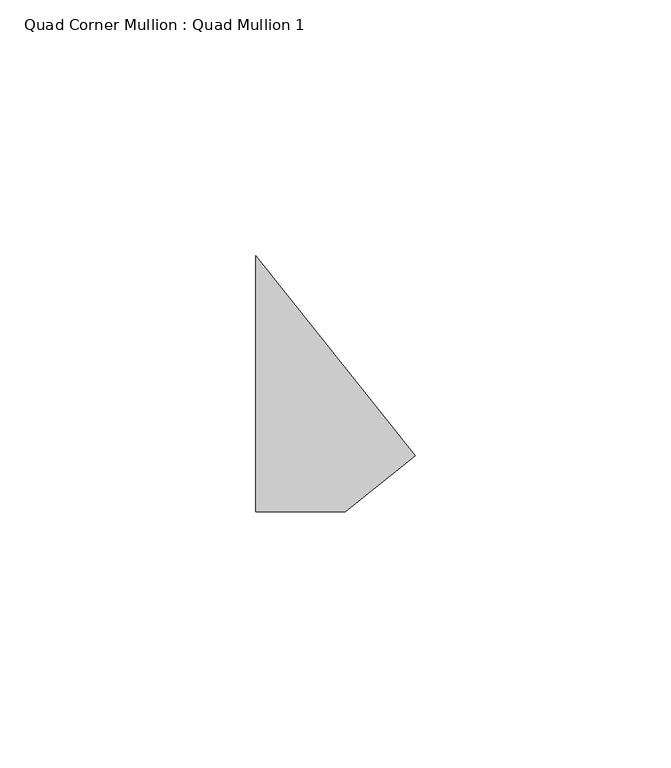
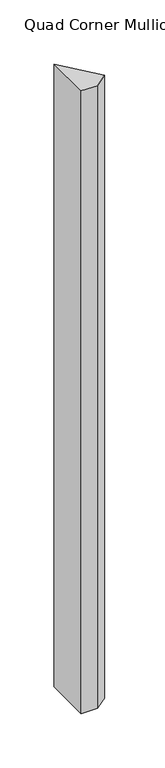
"""IFC4 building model written with IfcOpenShell, lengths in millimetres: member geometry, Quad Corner Mullion : Quad Mullion 1."""

from ifc_helpers import new_model, si_unit, frame, origin, place, context, project, spatial, polyline, outline, extrude, source, transform, mapped, element, save


def quad_corner_mullion_quad_mullion_1_be11a9eb(model_context):
    return source(origin(), model_context, "Body", "SweptSolid", [
        extrude(outline(polyline([(22.4169637, -14.1035695), (8.7424787, -25.0), (-8.7424787, -25.0), (-8.7424787, 25.0), (22.4169637, -14.1035695)])), frame((0.0, 0.0, -700.0), z_axis=(0.0, 0.0, 1.0), x_axis=(1.0, 0.0, 0.0)), (0.0, 0.0, 1.0), 700.0),
    ])


if __name__ == "__main__":
    model = new_model("IFC4")
    model_context = context("Model", 3, world=origin())
    ifc_project = project(units=[si_unit("LENGTHUNIT", "METRE", prefix="MILLI")], contexts=[model_context])
    site = spatial("IfcSite", under=ifc_project)
    building = spatial("IfcBuilding", under=site)
    placement = place(None, origin())
    quad_corner_mullion_quad_mullion_1_shape = quad_corner_mullion_quad_mullion_1_be11a9eb(model_context)
    element("IfcMember", 1, ObjectType="Quad Corner Mullion : Quad Mullion 1", at=placement, inside=building, context=model_context, shape_type="MappedRepresentation", body=[
        mapped(quad_corner_mullion_quad_mullion_1_shape, transform((0.0, 0.0, 0.0), x_axis=(1.0, 0.0, 0.0), y_axis=(0.0, 1.0, 0.0), z_axis=(0.0, 0.0, 1.0))),
    ])
    save(model, "model.ifc")
